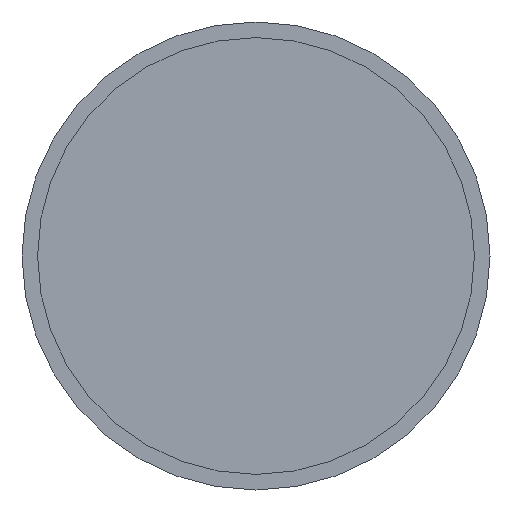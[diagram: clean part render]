
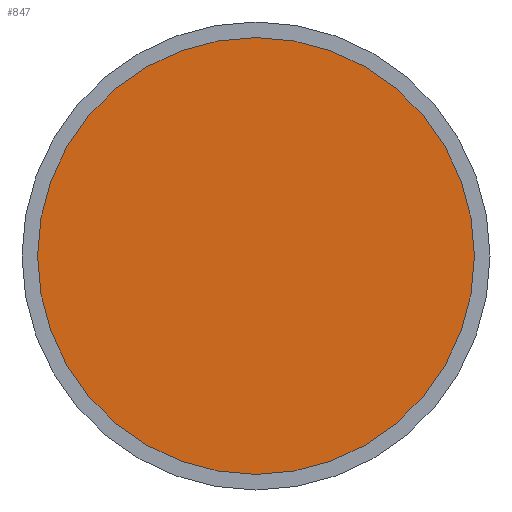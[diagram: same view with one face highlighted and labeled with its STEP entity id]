
A CAD part, front view. The second image highlights one B-rep face of the part: STEP entity #847.
In plain terms, the highlighted planar face has unit normal (0, -1, 0).
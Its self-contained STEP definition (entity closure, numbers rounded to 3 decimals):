
#152=PLANE('',#1068);
#210=FACE_OUTER_BOUND('',#269,.T.);
#269=EDGE_LOOP('',(#759));
#359=CIRCLE('',#1066,8.4);
#447=VERTEX_POINT('',#1644);
#555=EDGE_CURVE('',#447,#447,#359,.T.);
#759=ORIENTED_EDGE('',*,*,#555,.F.);
#847=ADVANCED_FACE('',(#210),#152,.F.);
#1066=AXIS2_PLACEMENT_3D('',#1646,#1362,#1363);
#1068=AXIS2_PLACEMENT_3D('',#1648,#1366,#1367);
#1362=DIRECTION('center_axis',(0.,1.,0.));
#1363=DIRECTION('ref_axis',(1.,0.,0.));
#1366=DIRECTION('center_axis',(0.,1.,0.));
#1367=DIRECTION('ref_axis',(1.,0.,0.));
#1644=CARTESIAN_POINT('',(-8.4,0.,0.));
#1646=CARTESIAN_POINT('Origin',(0.,0.,0.));
#1648=CARTESIAN_POINT('Origin',(0.,0.,0.));
